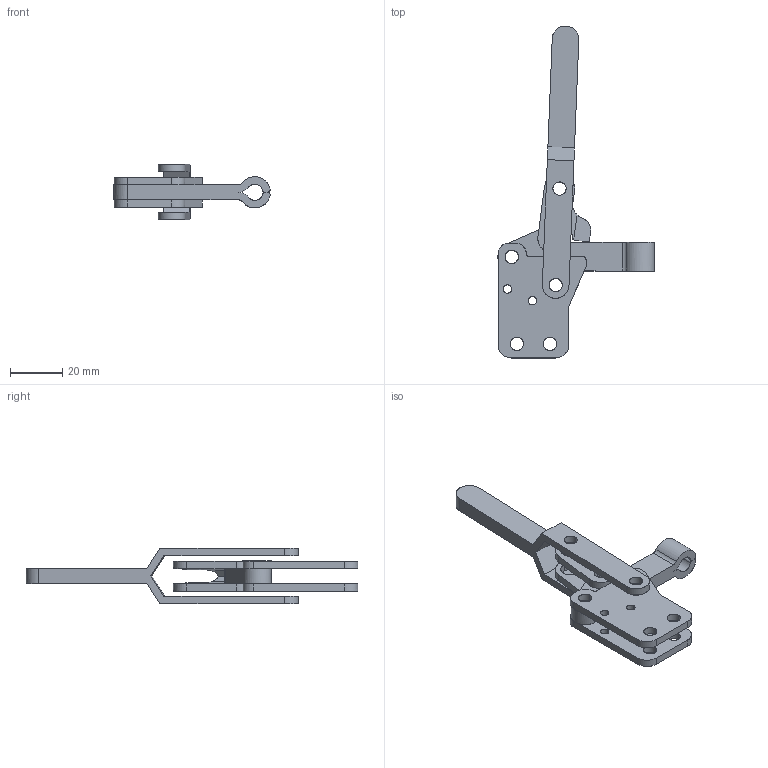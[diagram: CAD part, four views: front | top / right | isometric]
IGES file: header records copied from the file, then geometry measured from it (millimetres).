
Start section: Comment
Global section: file name: 11501c.igs; native system:  By Spatial Corp.; preprocessor: XPlus PS/IGES 3.0; author: Author; organization: Title; date: 20050216.165152; units: inch
Bounding box: 59.91 x 127.12 x 21.4 mm (x, y, z)
Surface area: 15116.4 mm2 (no closed solid volume)
Topology: 0 solids, 0 shells, 147 faces, 846 edges, 846 vertices
Faces by surface type: revolution 91, extrusion 56
